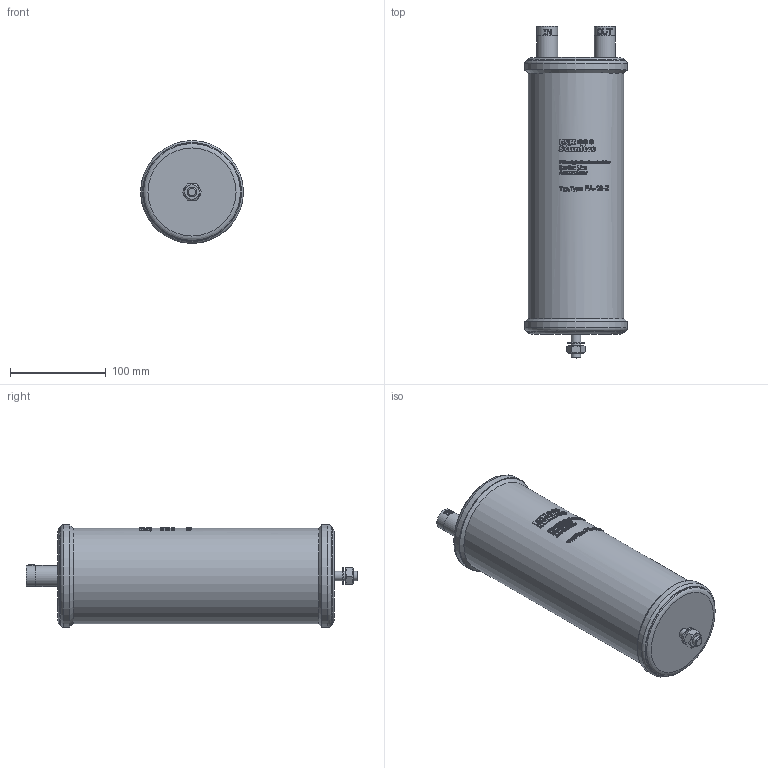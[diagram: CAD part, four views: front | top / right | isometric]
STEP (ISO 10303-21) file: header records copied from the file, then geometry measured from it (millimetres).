
FILE_DESCRIPTION(/* description */ (''),/* implementation_level */ '2;1');
FILE_NAME(/* name */ 'P:\FA\FA-18-2\FA-18-2.stp',/* time_stamp */ '2017-10-04T15:56:39+02:00',/* author */ ('neufeld'),/* organization */ (''),/* preprocessor_version */ 'ST-DEVELOPER v16.1',/* originating_system */ 'Autodesk Inventor 2016',/* authorisation */ '');
FILE_SCHEMA (('AUTOMOTIVE_DESIGN { 1 0 10303 214 3 1 1 }'));
Products named in the file (2): FA-18-2; FA-18-2_1
Assembly tree (1 placements, depth 2):
  FA-18-2_1
    FA-18-2
Bounding box: 107.5 x 347.2 x 107.5 mm (x, y, z)
Volume: 2318039.5 mm3; surface area: 117980.3 mm2
Topology: 2 solids, 2 shells, 1277 faces, 3454 edges, 2297 vertices
Faces by surface type: plane 681, bspline 456, cylinder 120, cone 10, torus 10
Full cylindrical faces by diameter (mm): 10 x2, 18.2 x2, 21.6 x2, 22 x2, 100 x1, 107.5 x2
Entity records: 49428 total; most frequent: CARTESIAN_POINT 19689, ORIENTED_EDGE 6844, DIRECTION 5010, EDGE_CURVE 3422, VERTEX_POINT 2294, AXIS2_PLACEMENT_3D 1692, LINE 1626, VECTOR 1626
